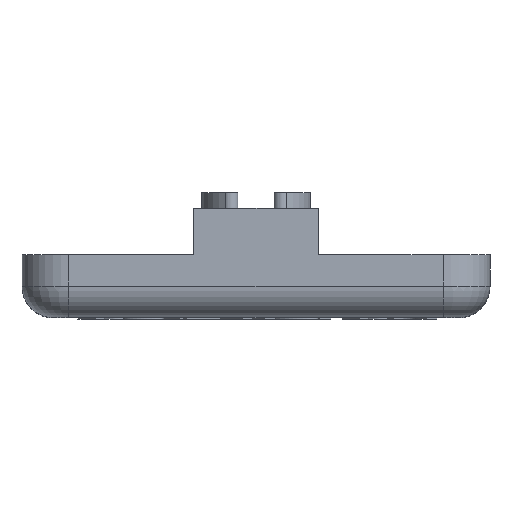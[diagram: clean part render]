
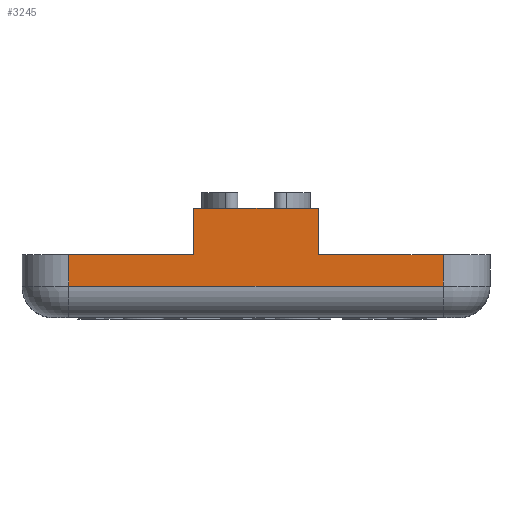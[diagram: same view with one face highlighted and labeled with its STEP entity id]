
A CAD part, top view. The second image highlights one B-rep face of the part: STEP entity #3245.
In plain terms, the highlighted planar face has unit normal (0, 0, 1).
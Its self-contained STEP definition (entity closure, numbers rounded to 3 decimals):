
#287 = DIRECTION ( 'NONE',  ( 0., -1., 0. ) ) ;
#471 = CARTESIAN_POINT ( 'NONE',  ( 12., 4., 15. ) ) ;
#673 = ORIENTED_EDGE ( 'NONE', *, *, #5222, .T. ) ;
#699 = CARTESIAN_POINT ( 'NONE',  ( 12., 2., 15. ) ) ;
#850 = LINE ( 'NONE', #2644, #4039 ) ;
#930 = EDGE_CURVE ( 'NONE', #7572, #4932, #5422, .T. ) ;
#1099 = CARTESIAN_POINT ( 'NONE',  ( -12., 4., 15. ) ) ;
#1181 = FACE_OUTER_BOUND ( 'NONE', #6543, .T. ) ;
#1207 = EDGE_CURVE ( 'NONE', #7572, #6249, #5249, .T. ) ;
#1261 = CARTESIAN_POINT ( 'NONE',  ( 4., 7., 15. ) ) ;
#1508 = ORIENTED_EDGE ( 'NONE', *, *, #6814, .F. ) ;
#1615 = DIRECTION ( 'NONE',  ( 0., 0., -1. ) ) ;
#1937 = ORIENTED_EDGE ( 'NONE', *, *, #930, .F. ) ;
#2041 = PLANE ( 'NONE',  #4841 ) ;
#2060 = VERTEX_POINT ( 'NONE', #3204 ) ;
#2279 = CARTESIAN_POINT ( 'NONE',  ( 12., 4., 15. ) ) ;
#2281 = VECTOR ( 'NONE', #2411, 1000. ) ;
#2303 = ORIENTED_EDGE ( 'NONE', *, *, #6716, .F. ) ;
#2411 = DIRECTION ( 'NONE',  ( 1., 0., 0. ) ) ;
#2486 = DIRECTION ( 'NONE',  ( 0., -1., 0. ) ) ;
#2539 = VERTEX_POINT ( 'NONE', #699 ) ;
#2545 = CARTESIAN_POINT ( 'NONE',  ( 4., 4., 15. ) ) ;
#2644 = CARTESIAN_POINT ( 'NONE',  ( -4., 7., 15. ) ) ;
#2766 = ORIENTED_EDGE ( 'NONE', *, *, #1207, .T. ) ;
#2945 = DIRECTION ( 'NONE',  ( 1., 0., 0. ) ) ;
#2994 = DIRECTION ( 'NONE',  ( 1., 0., 0. ) ) ;
#3147 = LINE ( 'NONE', #6698, #6326 ) ;
#3176 = EDGE_CURVE ( 'NONE', #3864, #6888, #3147, .T. ) ;
#3203 = VECTOR ( 'NONE', #3521, 1000. ) ;
#3204 = CARTESIAN_POINT ( 'NONE',  ( 4., 7., 15. ) ) ;
#3245 = ADVANCED_FACE ( 'NONE', ( #1181 ), #2041, .F. ) ;
#3283 = CARTESIAN_POINT ( 'NONE',  ( -4., 7., 15. ) ) ;
#3391 = DIRECTION ( 'NONE',  ( 1., 0., 0. ) ) ;
#3415 = CARTESIAN_POINT ( 'NONE',  ( -12., 2., 15. ) ) ;
#3521 = DIRECTION ( 'NONE',  ( 0., -1., 0. ) ) ;
#3684 = LINE ( 'NONE', #471, #6868 ) ;
#3756 = VERTEX_POINT ( 'NONE', #4107 ) ;
#3772 = ORIENTED_EDGE ( 'NONE', *, *, #3176, .F. ) ;
#3849 = LINE ( 'NONE', #4705, #2281 ) ;
#3864 = VERTEX_POINT ( 'NONE', #2545 ) ;
#4039 = VECTOR ( 'NONE', #2945, 1000. ) ;
#4107 = CARTESIAN_POINT ( 'NONE',  ( -4., 7., 15. ) ) ;
#4163 = EDGE_CURVE ( 'NONE', #6888, #2539, #3684, .T. ) ;
#4603 = CARTESIAN_POINT ( 'NONE',  ( -12., 4., 15. ) ) ;
#4705 = CARTESIAN_POINT ( 'NONE',  ( -12., 2., 15. ) ) ;
#4794 = LINE ( 'NONE', #1261, #3203 ) ;
#4831 = EDGE_CURVE ( 'NONE', #3756, #4932, #7725, .T. ) ;
#4841 = AXIS2_PLACEMENT_3D ( 'NONE', #4603, #1615, #5774 ) ;
#4932 = VERTEX_POINT ( 'NONE', #6848 ) ;
#5222 = EDGE_CURVE ( 'NONE', #6249, #2539, #3849, .T. ) ;
#5249 = LINE ( 'NONE', #5286, #6831 ) ;
#5286 = CARTESIAN_POINT ( 'NONE',  ( -12., 4., 15. ) ) ;
#5422 = LINE ( 'NONE', #1099, #6531 ) ;
#5506 = ORIENTED_EDGE ( 'NONE', *, *, #4163, .F. ) ;
#5774 = DIRECTION ( 'NONE',  ( -1., 0., 0. ) ) ;
#6086 = VECTOR ( 'NONE', #287, 1000. ) ;
#6153 = DIRECTION ( 'NONE',  ( 0., -1., 0. ) ) ;
#6249 = VERTEX_POINT ( 'NONE', #3415 ) ;
#6326 = VECTOR ( 'NONE', #3391, 1000. ) ;
#6531 = VECTOR ( 'NONE', #2994, 1000. ) ;
#6543 = EDGE_LOOP ( 'NONE', ( #2766, #673, #5506, #3772, #2303, #1508, #6762, #1937 ) ) ;
#6698 = CARTESIAN_POINT ( 'NONE',  ( -12., 4., 15. ) ) ;
#6716 = EDGE_CURVE ( 'NONE', #2060, #3864, #4794, .T. ) ;
#6762 = ORIENTED_EDGE ( 'NONE', *, *, #4831, .T. ) ;
#6814 = EDGE_CURVE ( 'NONE', #3756, #2060, #850, .T. ) ;
#6824 = CARTESIAN_POINT ( 'NONE',  ( -12., 4., 15. ) ) ;
#6831 = VECTOR ( 'NONE', #2486, 1000. ) ;
#6848 = CARTESIAN_POINT ( 'NONE',  ( -4., 4., 15. ) ) ;
#6868 = VECTOR ( 'NONE', #6153, 1000. ) ;
#6888 = VERTEX_POINT ( 'NONE', #2279 ) ;
#7572 = VERTEX_POINT ( 'NONE', #6824 ) ;
#7725 = LINE ( 'NONE', #3283, #6086 ) ;
